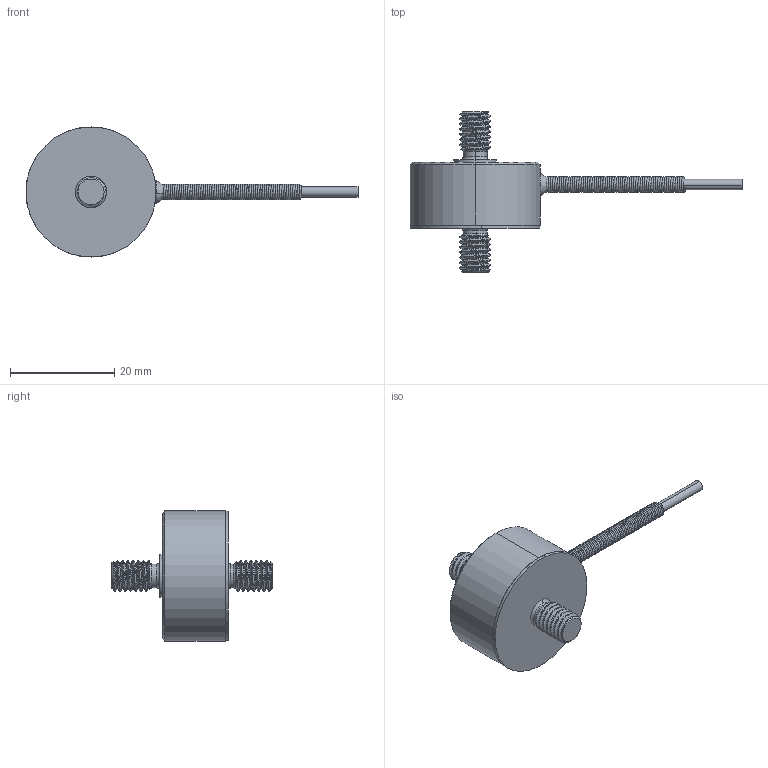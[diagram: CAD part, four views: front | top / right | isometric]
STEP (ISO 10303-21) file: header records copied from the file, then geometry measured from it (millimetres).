
FILE_DESCRIPTION (( 'STEP AP214' ), '1' );
FILE_NAME ('AILC2.STEP', '2020-04-11T04:15:42', ( '' ), ( '' ), 'SwSTEP 2.0', 'SolidWorks 2011', '' );
FILE_SCHEMA (( 'AUTOMOTIVE_DESIGN' ));
Length unit declared in the file: millimetre
Products named in the file (14): HS001889; PCB-A006012; CONS003645; CONS003738; STR-A005892; CAB002016; MWHML42AWG; CAB-A005485; CAB-A007125; 2mm cable^AILC2-MC; Copy of SPR-A005737^AILC2-MC; MMACH-A006118; MMACH-A006117; AILC2
Assembly tree (4 placements, depth 2):
  HS001889
  PCB-A006012
  CONS003645
  CONS003738
  STR-A005892
Bounding box: 63.77 x 30.75 x 25 mm (x, y, z)
Volume: 6594 mm3; surface area: 5172.6 mm2
Topology: 4 solids, 4 shells, 149 faces, 376 edges, 242 vertices
Faces by surface type: cylinder 80, bspline 20, plane 17, cone 16, torus 16
Entity records: 31044 total; most frequent: CARTESIAN_POINT 27588, ORIENTED_EDGE 748, DIRECTION 558, EDGE_CURVE 374, VERTEX_POINT 242, AXIS2_PLACEMENT_3D 236, EDGE_LOOP 158, FACE_OUTER_BOUND 149
